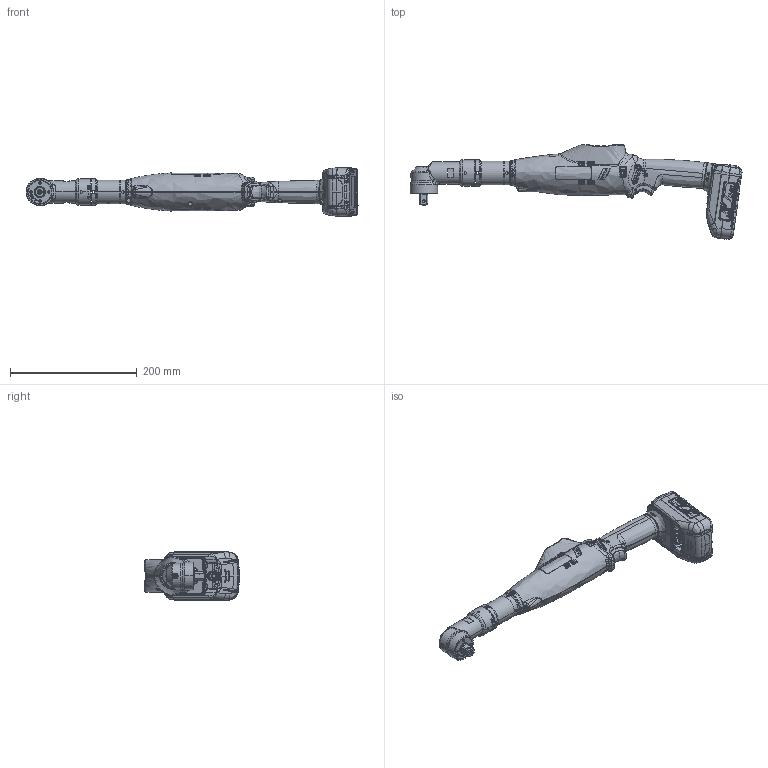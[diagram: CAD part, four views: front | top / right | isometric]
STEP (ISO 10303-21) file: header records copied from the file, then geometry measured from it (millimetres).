
FILE_DESCRIPTION (( 'STEP AP203' ), '1' );
FILE_NAME ('NRA-50S3.50S4.60S3.60S4.STEP', '2024-08-19T07:51:22', ( '' ), ( '' ), 'SwSTEP 2.0', 'SolidWorks 2021', '' );
FILE_SCHEMA (( 'CONFIG_CONTROL_DESIGN' ));
Length unit declared in the file: millimetre
Products named in the file (1): NRA-50S3.50S4.60S3.60S4
Bounding box: 524.19 x 149.55 x 77 mm (x, y, z)
Surface area: 151020 mm2 (no closed solid volume)
Topology: 0 solids, 381 shells, 2742 faces, 12454 edges, 9752 vertices
Faces by surface type: bspline 952, plane 727, cylinder 696, cone 190, torus 151, sphere 26
Entity records: 212920 total; most frequent: CARTESIAN_POINT 126154, ORIENTED_EDGE 17026, DIRECTION 14735, EDGE_CURVE 12388, VERTEX_POINT 9748, AXIS2_PLACEMENT_3D 5070, LINE 4595, VECTOR 4595
